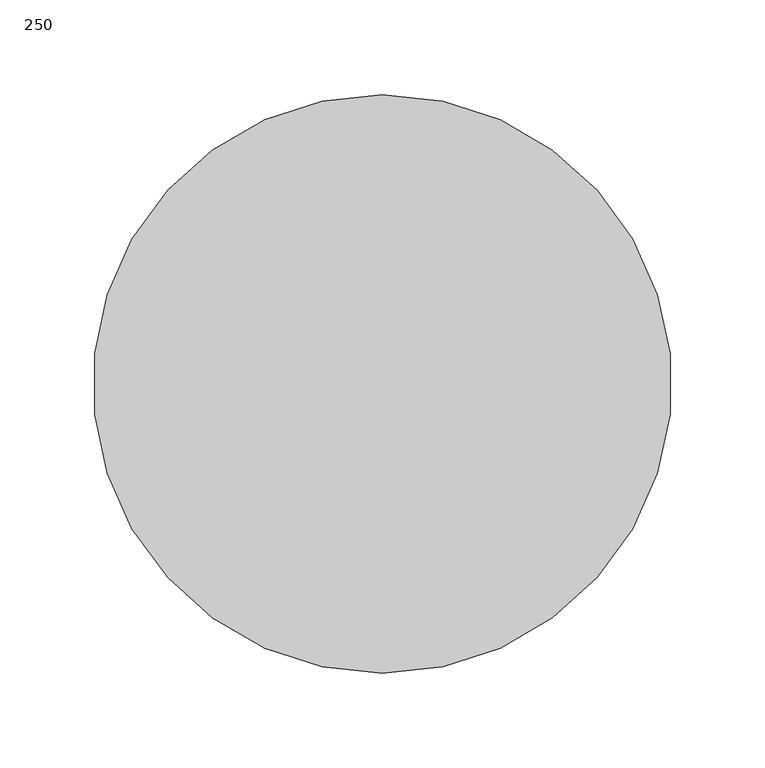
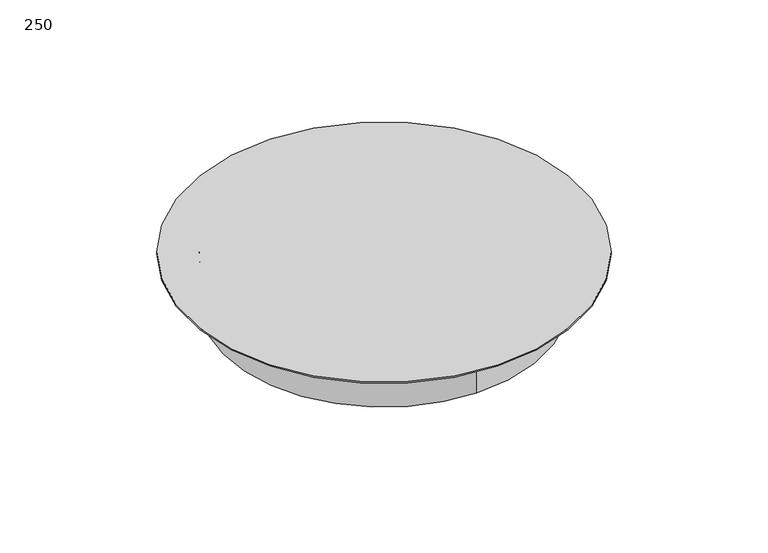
"""IFC4 building model written with IfcOpenShell, lengths in millimetres: duct fitting geometry, VE-Zagnieżdżone-Akcesorium-ParaForma-Harmann-DAF-Króciec_Przyłączeniowy : 250."""

import ifcopenshell
import ifcopenshell.guid

model = None  # the IFC model being written
_history = None  # IfcOwnerHistory: only IFC2X3 demands one
_inside = {}  # id of a spatial element -> (the spatial element, [elements in it])
_under = {}  # id of a project, library or spatial element -> (it, [spatial elements below it])
_declared = {}  # id of a project -> (the project, [libraries it declares])
_typed = {}  # id of a type object -> (the type object, [elements of that type])
_made_of = {}  # id of a material, layer set ... -> (it, [elements and type objects made of it])


def new_model(schema):
    """Start an empty IFC model of exactly this schema.

    Asked for "IFC4X3", IfcOpenShell would pick the latest addendum, in which some entities
    have other attributes; the version numbers below select the first issue.
    IFC2X3 requires an IfcOwnerHistory on every rooted entity: one is made here for all.
    """
    global model, _history
    if schema == "IFC4X3":
        model = ifcopenshell.file(schema_version=(4, 3, 0, 0))
    else:
        model = ifcopenshell.file(schema=schema)
    _inside.clear()
    _under.clear()
    _declared.clear()
    _typed.clear()
    _made_of.clear()
    _history = None
    if model.schema == "IFC2X3":
        org = make("IfcOrganization", Name="unknown")
        user = make(
            "IfcPersonAndOrganization",
            ThePerson=make("IfcPerson", FamilyName="unknown"),
            TheOrganization=org,
        )
        app = make(
            "IfcApplication",
            ApplicationDeveloper=org,
            Version="unknown",
            ApplicationFullName="unknown",
            ApplicationIdentifier="unknown",
        )
        _history = make(
            "IfcOwnerHistory",
            OwningUser=user,
            OwningApplication=app,
            ChangeAction="ADDED",
            CreationDate=0,
        )
    return model


def make(cls, **values):
    """One entity of the class cls with the attributes given. An attribute that is None is left unset."""
    return model.create_entity(
        cls, **{name: value for name, value in values.items() if value is not None}
    )


def rooted(cls, **values):
    """An entity with a GlobalId (a new one), such as an element, a storey or a relation."""
    return make(cls, GlobalId=ifcopenshell.guid.new(), OwnerHistory=_history, **values)


def si_unit(unit_type, name, prefix=None):
    """IfcSIUnit, for example si_unit("LENGTHUNIT", "METRE", prefix="MILLI")."""
    return make("IfcSIUnit", UnitType=unit_type, Prefix=prefix, Name=name)


def assignment(units):
    """IfcUnitAssignment: the units of a project."""
    return None if units is None else make("IfcUnitAssignment", Units=units)


def point(xyz):
    """IfcCartesianPoint."""
    return None if xyz is None else make("IfcCartesianPoint", Coordinates=xyz)


def direction(xyz):
    """IfcDirection."""
    return None if xyz is None else make("IfcDirection", DirectionRatios=xyz)


def frame(location, z_axis=None, x_axis=None):
    """IfcAxis2Placement3D, a coordinate frame: its origin and axes. An axis left out is left unset."""
    return make(
        "IfcAxis2Placement3D",
        Location=point(location),
        Axis=direction(z_axis),
        RefDirection=direction(x_axis),
    )


def frame_2d(location, x_axis=None):
    """IfcAxis2Placement2D, a coordinate frame in the plane: its origin and x axis."""
    return make(
        "IfcAxis2Placement2D", Location=point(location), RefDirection=direction(x_axis)
    )


def origin():
    """The frame at (0, 0, 0) with its axes left unset."""
    return frame((0.0, 0.0, 0.0))


def origin_2d():
    """The frame at (0, 0) in the plane with its x axis left unset."""
    return frame_2d((0.0, 0.0))


def place(relative_to, where):
    """IfcLocalPlacement: puts the frame where relative to a parent placement (None: the world)."""
    return make(
        "IfcLocalPlacement", PlacementRelTo=relative_to, RelativePlacement=where
    )


def context(
    kind, dimensions, precision=None, world=None, true_north=None, identifier=None
):
    """IfcGeometricRepresentationContext, for example the 3D "Model" context."""
    return make(
        "IfcGeometricRepresentationContext",
        ContextIdentifier=identifier,
        ContextType=kind,
        CoordinateSpaceDimension=dimensions,
        Precision=precision,
        WorldCoordinateSystem=world,
        TrueNorth=true_north,
    )


def project(units=None, contexts=None):
    """IfcProject with its units and contexts."""
    return rooted(
        "IfcProject",
        Name="project",
        RepresentationContexts=contexts,
        UnitsInContext=assignment(units),
    )


def spatial(cls, under=None, at=None, **own):
    """A site, building, storey or space (cls), placed at a placement, below another one or the project."""
    s = rooted(cls, ObjectPlacement=at, **own)
    if under is not None:
        _under.setdefault(under.id(), (under, []))[1].append(s)
    return s


def circle_curve(where, radius):
    """IfcCircle in the frame where."""
    return make("IfcCircle", Position=where, Radius=radius)


def trimmed(basis, trim1, trim2, sense, master):
    """IfcTrimmedCurve: the piece of a basis curve between two trims."""
    return make(
        "IfcTrimmedCurve",
        BasisCurve=basis,
        Trim1=trim1,
        Trim2=trim2,
        SenseAgreement=sense,
        MasterRepresentation=master,
    )


def segment(curve, same_sense, transition):
    """IfcCompositeCurveSegment."""
    return make(
        "IfcCompositeCurveSegment",
        Transition=transition,
        SameSense=same_sense,
        ParentCurve=curve,
    )


def composite_curve(segments, self_intersect=None):
    """IfcCompositeCurve: segments joined end to end."""
    return make("IfcCompositeCurve", Segments=segments, SelfIntersect=self_intersect)


def outline(outer, holes=None, kind="AREA"):
    """IfcArbitraryClosedProfileDef: a profile drawn as a closed curve; with holes, ...WithVoids."""
    if holes is None:
        return make("IfcArbitraryClosedProfileDef", ProfileType=kind, OuterCurve=outer)
    return make(
        "IfcArbitraryProfileDefWithVoids",
        ProfileType=kind,
        OuterCurve=outer,
        InnerCurves=holes,
    )


def extrude(swept, where, along, depth):
    """IfcExtrudedAreaSolid: the profile swept, set in the frame where, extruded along a direction by depth."""
    return make(
        "IfcExtrudedAreaSolid",
        SweptArea=swept,
        Position=where,
        ExtrudedDirection=direction(along),
        Depth=depth,
    )


def shape(context_of_items, identifier, shape_type, items):
    """IfcShapeRepresentation: the items that make up one representation, for example the "Body"."""
    return make(
        "IfcShapeRepresentation",
        ContextOfItems=context_of_items,
        RepresentationIdentifier=identifier,
        RepresentationType=shape_type,
        Items=items,
    )


def source(mapping_origin, context_of_items, identifier, shape_type, items):
    """IfcRepresentationMap: a shape defined once, which mapped items show again and again."""
    return make(
        "IfcRepresentationMap",
        MappingOrigin=mapping_origin,
        MappedRepresentation=shape(context_of_items, identifier, shape_type, items),
    )


def transform(
    local_origin,
    x_axis=None,
    y_axis=None,
    z_axis=None,
    scale=None,
    scale2=None,
    scale3=None,
    uniform=True,
):
    """IfcCartesianTransformationOperator3D, or its non-uniform kind. x_axis, y_axis, z_axis: its Axis1, 2, 3."""
    if uniform:
        return make(
            "IfcCartesianTransformationOperator3D",
            Axis1=direction(x_axis),
            Axis2=direction(y_axis),
            LocalOrigin=point(local_origin),
            Scale=scale,
            Axis3=direction(z_axis),
        )
    return make(
        "IfcCartesianTransformationOperator3DnonUniform",
        Axis1=direction(x_axis),
        Axis2=direction(y_axis),
        LocalOrigin=point(local_origin),
        Scale=scale,
        Axis3=direction(z_axis),
        Scale2=scale2,
        Scale3=scale3,
    )


def mapped(mapping_source, mapping_target):
    """IfcMappedItem: shows the shape of a source again, moved by a transform."""
    return make(
        "IfcMappedItem", MappingSource=mapping_source, MappingTarget=mapping_target
    )


def made_of(thing, what):
    """Note that an element or type object is made of a material, layer set ...; save() writes the relation."""
    if what is not None:
        _made_of.setdefault(what.id(), (what, []))[1].append(thing)
    return thing


def element(
    cls,
    number,
    at=None,
    inside=None,
    cuts=None,
    type_object=None,
    material=None,
    context=None,
    identifier="Body",
    shape_type=None,
    held_by="IfcProductDefinitionShape",
    body=None,
    shapes=None,
    **own,
):
    """One element of the class cls, such as IfcWall. Its Tag is "e" and its number.

    at: its placement. inside: the storey or other place that contains it. cuts: it is an
    opening in that element (IfcRelVoidsElement). A single representation is given by context,
    identifier, shape_type and body (its items); several are given by shapes. held_by: the class
    of the entity that holds the representations. save() writes the other relations.
    """
    e = rooted(cls, Tag="e%d" % number, ObjectPlacement=at, **own)
    if body is not None:
        shapes = [shape(context, identifier, shape_type, body)]
    if shapes is not None:
        e.Representation = make(held_by, Representations=shapes)
    if inside is not None:
        _inside.setdefault(inside.id(), (inside, []))[1].append(e)
    if cuts is not None:
        rooted(
            "IfcRelVoidsElement", RelatingBuildingElement=cuts, RelatedOpeningElement=e
        )
    if type_object is not None:
        _typed.setdefault(type_object.id(), (type_object, []))[1].append(e)
    return made_of(e, material)


def aggregate(whole, parts):
    """IfcRelAggregates: a whole, such as a stair, and the parts it consists of."""
    return rooted("IfcRelAggregates", RelatingObject=whole, RelatedObjects=parts)


def save(model, path):
    """Write the relations noted so far, then the file.

    IfcRelAggregates (storeys below a building ...), IfcRelContainedInSpatialStructure (elements
    in a storey), IfcRelDefinesByType, IfcRelAssociatesMaterial and IfcRelDeclares: one each for
    every whole, place, type object, material and project.
    """
    for whole, parts in _under.values():
        aggregate(whole, parts)
    for where, things in _inside.values():
        rooted(
            "IfcRelContainedInSpatialStructure",
            RelatedElements=things,
            RelatingStructure=where,
        )
    for kind, things in _typed.values():
        rooted("IfcRelDefinesByType", RelatedObjects=things, RelatingType=kind)
    for what, things in _made_of.values():
        rooted("IfcRelAssociatesMaterial", RelatedObjects=things, RelatingMaterial=what)
    for by, libraries in _declared.values():
        rooted("IfcRelDeclares", RelatingContext=by, RelatedDefinitions=libraries)
    model.write(path)


def duct_fitting_250_9d40ecca(model_context):
    return source(origin(), model_context, "Body", "SweptSolid", [
        extrude(outline(composite_curve([segment(trimmed(circle_curve(origin_2d(), 124.5), [point((0.0, -124.5))], [point((0.0, 124.5))], False, "CARTESIAN"), True, "CONTINUOUS"), segment(trimmed(circle_curve(origin_2d(), 124.5), [point((0.0, 124.5))], [point((0.0, -124.5))], False, "CARTESIAN"), True, "CONTINUOUS")], self_intersect=False)), frame((0.0, 0.0, -40.0), z_axis=(0.0, 0.0, 1.0), x_axis=(1.0, 0.0, 0.0)), (0.0, 0.0, 1.0), 39.0),
        extrude(outline(composite_curve([segment(trimmed(circle_curve(origin_2d(), 152.5), [point((0.0, -152.5))], [point((0.0, 152.5))], False, "CARTESIAN"), True, "CONTINUOUS"), segment(trimmed(circle_curve(origin_2d(), 152.5), [point((0.0, 152.5))], [point((0.0, -152.5))], False, "CARTESIAN"), True, "CONTINUOUS")], self_intersect=False)), frame((0.0, 0.0, -1.0), z_axis=(0.0, 0.0, 1.0), x_axis=(1.0, 0.0, 0.0)), (0.0, 0.0, 1.0), 1.0),
    ])


if __name__ == "__main__":
    model = new_model("IFC4")
    model_context = context("Model", 3, world=origin())
    ifc_project = project(units=[si_unit("LENGTHUNIT", "METRE", prefix="MILLI")], contexts=[model_context])
    site = spatial("IfcSite", under=ifc_project)
    building = spatial("IfcBuilding", under=site)
    placement = place(None, origin())
    duct_fitting_250_shape = duct_fitting_250_9d40ecca(model_context)
    element("IfcDuctFitting", 1, ObjectType="VE-Zagnieżdżone-Akcesorium-ParaForma-Harmann-DAF-Króciec_Przyłączeniowy : 250", at=placement, inside=building, context=model_context, shape_type="MappedRepresentation", body=[
        mapped(duct_fitting_250_shape, transform((0.0, 0.0, 0.0), x_axis=(1.0, 0.0, 0.0), y_axis=(0.0, 1.0, 0.0), z_axis=(0.0, 0.0, 1.0))),
    ])
    save(model, "model.ifc")
